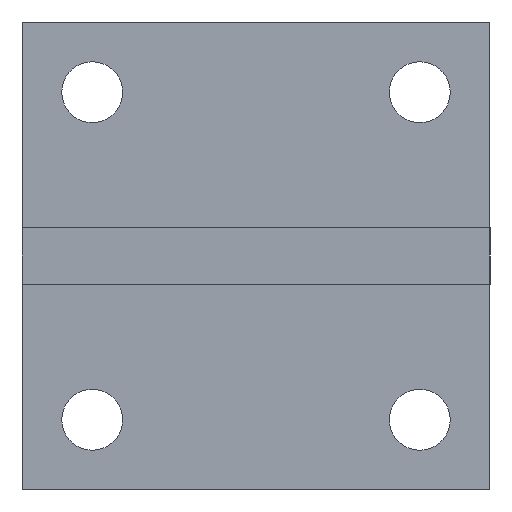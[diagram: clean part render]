
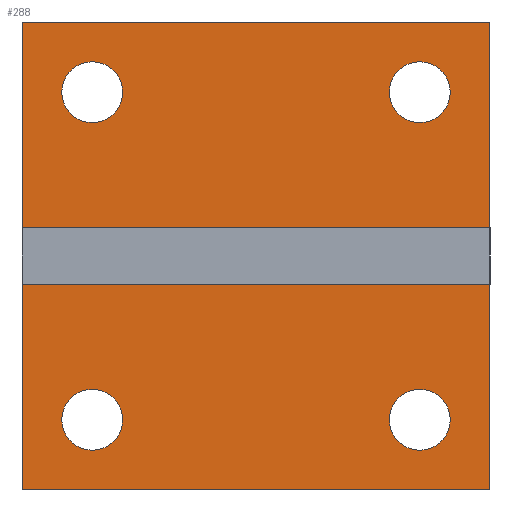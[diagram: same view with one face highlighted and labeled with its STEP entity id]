
A CAD part, left-side view. The second image highlights one B-rep face of the part: STEP entity #288.
In plain terms, the highlighted planar face has unit normal (-1, 0, 0) as drawn and (0, 0, 1) by its records, which use the part's own axes.
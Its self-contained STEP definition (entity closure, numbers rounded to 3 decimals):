
#28=FACE_BOUND('',#88,.T.);
#29=FACE_BOUND('',#89,.T.);
#30=FACE_BOUND('',#90,.T.);
#31=FACE_BOUND('',#91,.T.);
#32=FACE_BOUND('',#92,.T.);
#34=CIRCLE('',#303,3.25);
#36=CIRCLE('',#306,3.25);
#38=CIRCLE('',#309,3.25);
#40=CIRCLE('',#312,3.25);
#88=EDGE_LOOP('',(#253));
#89=EDGE_LOOP('',(#254));
#90=EDGE_LOOP('',(#255));
#91=EDGE_LOOP('',(#256));
#92=EDGE_LOOP('',(#257,#258,#259,#260));
#105=LINE('',#455,#129);
#109=LINE('',#463,#133);
#112=LINE('',#469,#136);
#115=LINE('',#474,#139);
#129=VECTOR('',#376,50.);
#133=VECTOR('',#382,50.);
#136=VECTOR('',#387,50.);
#139=VECTOR('',#392,50.);
#150=VERTEX_POINT('',#435);
#152=VERTEX_POINT('',#440);
#154=VERTEX_POINT('',#445);
#156=VERTEX_POINT('',#450);
#157=VERTEX_POINT('',#453);
#158=VERTEX_POINT('',#454);
#161=VERTEX_POINT('',#462);
#163=VERTEX_POINT('',#468);
#178=EDGE_CURVE('',#150,#150,#34,.T.);
#180=EDGE_CURVE('',#152,#152,#36,.T.);
#182=EDGE_CURVE('',#154,#154,#38,.T.);
#184=EDGE_CURVE('',#156,#156,#40,.T.);
#185=EDGE_CURVE('',#157,#158,#105,.T.);
#189=EDGE_CURVE('',#158,#161,#109,.T.);
#192=EDGE_CURVE('',#161,#163,#112,.T.);
#195=EDGE_CURVE('',#163,#157,#115,.T.);
#253=ORIENTED_EDGE('',*,*,#178,.T.);
#254=ORIENTED_EDGE('',*,*,#180,.T.);
#255=ORIENTED_EDGE('',*,*,#182,.T.);
#256=ORIENTED_EDGE('',*,*,#184,.T.);
#257=ORIENTED_EDGE('',*,*,#185,.F.);
#258=ORIENTED_EDGE('',*,*,#195,.F.);
#259=ORIENTED_EDGE('',*,*,#192,.F.);
#260=ORIENTED_EDGE('',*,*,#189,.F.);
#272=PLANE('',#318);
#288=ADVANCED_FACE('',(#28,#29,#30,#31,#32),#272,.T.);
#303=AXIS2_PLACEMENT_3D('',#436,#354,#355);
#306=AXIS2_PLACEMENT_3D('',#441,#360,#361);
#309=AXIS2_PLACEMENT_3D('',#446,#366,#367);
#312=AXIS2_PLACEMENT_3D('',#451,#372,#373);
#318=AXIS2_PLACEMENT_3D('',#477,#396,#397);
#354=DIRECTION('center_axis',(0.,0.,-1.));
#355=DIRECTION('ref_axis',(1.,0.,0.));
#360=DIRECTION('center_axis',(0.,0.,-1.));
#361=DIRECTION('ref_axis',(1.,0.,0.));
#366=DIRECTION('center_axis',(0.,0.,-1.));
#367=DIRECTION('ref_axis',(1.,0.,0.));
#372=DIRECTION('center_axis',(0.,0.,-1.));
#373=DIRECTION('ref_axis',(1.,0.,0.));
#376=DIRECTION('',(0.,1.,0.));
#382=DIRECTION('',(1.,0.,0.));
#387=DIRECTION('',(0.,-1.,0.));
#392=DIRECTION('',(-1.,0.,0.));
#396=DIRECTION('center_axis',(0.,0.,1.));
#397=DIRECTION('ref_axis',(1.,0.,0.));
#435=CARTESIAN_POINT('',(20.75,17.5,10.));
#436=CARTESIAN_POINT('Origin',(17.5,17.5,10.));
#440=CARTESIAN_POINT('',(-14.25,17.5,10.));
#441=CARTESIAN_POINT('Origin',(-17.5,17.5,10.));
#445=CARTESIAN_POINT('',(20.75,-17.5,10.));
#446=CARTESIAN_POINT('Origin',(17.5,-17.5,10.));
#450=CARTESIAN_POINT('',(-14.25,-17.5,10.));
#451=CARTESIAN_POINT('Origin',(-17.5,-17.5,10.));
#453=CARTESIAN_POINT('',(-25.,-25.,10.));
#454=CARTESIAN_POINT('',(-25.,25.,10.));
#455=CARTESIAN_POINT('',(-25.,25.,10.));
#462=CARTESIAN_POINT('',(25.,25.,10.));
#463=CARTESIAN_POINT('',(25.,25.,10.));
#468=CARTESIAN_POINT('',(25.,-25.,10.));
#469=CARTESIAN_POINT('',(25.,-25.,10.));
#474=CARTESIAN_POINT('',(-25.,-25.,10.));
#477=CARTESIAN_POINT('Origin',(0.,0.,10.));
